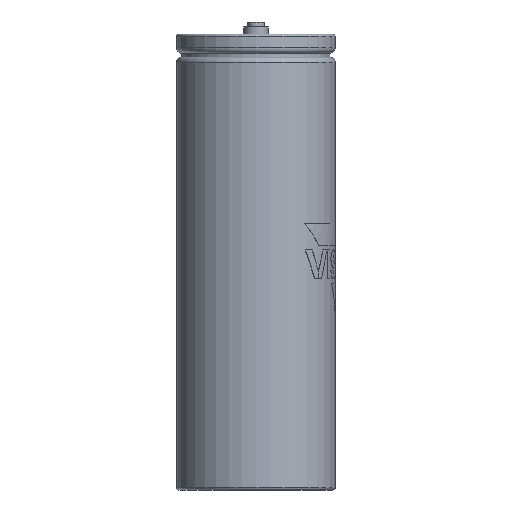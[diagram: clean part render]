
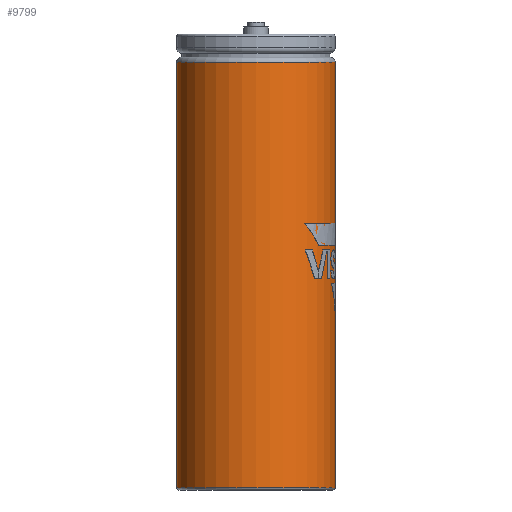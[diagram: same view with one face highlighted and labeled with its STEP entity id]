
A CAD part, left-side view. The second image highlights one B-rep face of the part: STEP entity #9799.
In plain terms, the highlighted cylindrical face has radius 38.2 mm (diameter 76.4 mm), a full revolution.
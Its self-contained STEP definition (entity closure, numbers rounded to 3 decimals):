
#9732 = TOROIDAL_SURFACE('',#9733,37.1,1.1);
#9733 = AXIS2_PLACEMENT_3D('',#9734,#9735,#9736);
#9734 = CARTESIAN_POINT('',(0.,0.,-217.6));
#9735 = DIRECTION('',(0.,0.,1.));
#9736 = DIRECTION('',(1.,0.,0.));
#9749 = VERTEX_POINT('',#9750);
#9750 = CARTESIAN_POINT('',(38.2,0.,-217.6));
#9772 = EDGE_CURVE('',#9749,#9749,#9773,.T.);
#9773 = SURFACE_CURVE('',#9774,(#9779,#9786),.PCURVE_S1.);
#9774 = CIRCLE('',#9775,38.2);
#9775 = AXIS2_PLACEMENT_3D('',#9776,#9777,#9778);
#9776 = CARTESIAN_POINT('',(0.,0.,-217.6));
#9777 = DIRECTION('',(0.,-0.,1.));
#9778 = DIRECTION('',(1.,0.,0.));
#9779 = PCURVE('',#9732,#9780);
#9780 = DEFINITIONAL_REPRESENTATION('',(#9781),#9785);
#9781 = LINE('',#9782,#9783);
#9782 = CARTESIAN_POINT('',(0.,6.283));
#9783 = VECTOR('',#9784,1.);
#9784 = DIRECTION('',(1.,0.));
#9785 = ( GEOMETRIC_REPRESENTATION_CONTEXT(2) 
PARAMETRIC_REPRESENTATION_CONTEXT() REPRESENTATION_CONTEXT('2D SPACE',''
  ) );
#9786 = PCURVE('',#9787,#9792);
#9787 = CYLINDRICAL_SURFACE('',#9788,38.2);
#9788 = AXIS2_PLACEMENT_3D('',#9789,#9790,#9791);
#9789 = CARTESIAN_POINT('',(0.,0.,-217.6));
#9790 = DIRECTION('',(0.,0.,1.));
#9791 = DIRECTION('',(1.,0.,0.));
#9792 = DEFINITIONAL_REPRESENTATION('',(#9793),#9797);
#9793 = LINE('',#9794,#9795);
#9794 = CARTESIAN_POINT('',(0.,0.));
#9795 = VECTOR('',#9796,1.);
#9796 = DIRECTION('',(1.,0.));
#9797 = ( GEOMETRIC_REPRESENTATION_CONTEXT(2) 
PARAMETRIC_REPRESENTATION_CONTEXT() REPRESENTATION_CONTEXT('2D SPACE',''
  ) );
#9799 = ADVANCED_FACE('',(#9800),#9787,.T.);
#9800 = FACE_BOUND('',#9801,.T.);
#9801 = EDGE_LOOP('',(#9802,#9803,#9826,#9853));
#9802 = ORIENTED_EDGE('',*,*,#9772,.T.);
#9803 = ORIENTED_EDGE('',*,*,#9804,.T.);
#9804 = EDGE_CURVE('',#9749,#9805,#9807,.T.);
#9805 = VERTEX_POINT('',#9806);
#9806 = CARTESIAN_POINT('',(38.2,0.,-12.5));
#9807 = SEAM_CURVE('',#9808,(#9812,#9819),.PCURVE_S1.);
#9808 = LINE('',#9809,#9810);
#9809 = CARTESIAN_POINT('',(38.2,0.,-217.6));
#9810 = VECTOR('',#9811,1.);
#9811 = DIRECTION('',(0.,0.,1.));
#9812 = PCURVE('',#9787,#9813);
#9813 = DEFINITIONAL_REPRESENTATION('',(#9814),#9818);
#9814 = LINE('',#9815,#9816);
#9815 = CARTESIAN_POINT('',(0.,0.));
#9816 = VECTOR('',#9817,1.);
#9817 = DIRECTION('',(0.,1.));
#9818 = ( GEOMETRIC_REPRESENTATION_CONTEXT(2) 
PARAMETRIC_REPRESENTATION_CONTEXT() REPRESENTATION_CONTEXT('2D SPACE',''
  ) );
#9819 = PCURVE('',#9787,#9820);
#9820 = DEFINITIONAL_REPRESENTATION('',(#9821),#9825);
#9821 = LINE('',#9822,#9823);
#9822 = CARTESIAN_POINT('',(6.283,0.));
#9823 = VECTOR('',#9824,1.);
#9824 = DIRECTION('',(0.,1.));
#9825 = ( GEOMETRIC_REPRESENTATION_CONTEXT(2) 
PARAMETRIC_REPRESENTATION_CONTEXT() REPRESENTATION_CONTEXT('2D SPACE',''
  ) );
#9826 = ORIENTED_EDGE('',*,*,#9827,.F.);
#9827 = EDGE_CURVE('',#9805,#9805,#9828,.T.);
#9828 = SURFACE_CURVE('',#9829,(#9834,#9841),.PCURVE_S1.);
#9829 = CIRCLE('',#9830,38.2);
#9830 = AXIS2_PLACEMENT_3D('',#9831,#9832,#9833);
#9831 = CARTESIAN_POINT('',(0.,0.,-12.5));
#9832 = DIRECTION('',(0.,-0.,1.));
#9833 = DIRECTION('',(1.,0.,0.));
#9834 = PCURVE('',#9787,#9835);
#9835 = DEFINITIONAL_REPRESENTATION('',(#9836),#9840);
#9836 = LINE('',#9837,#9838);
#9837 = CARTESIAN_POINT('',(0.,205.1));
#9838 = VECTOR('',#9839,1.);
#9839 = DIRECTION('',(1.,0.));
#9840 = ( GEOMETRIC_REPRESENTATION_CONTEXT(2) 
PARAMETRIC_REPRESENTATION_CONTEXT() REPRESENTATION_CONTEXT('2D SPACE',''
  ) );
#9841 = PCURVE('',#9842,#9847);
#9842 = TOROIDAL_SURFACE('',#9843,35.7,2.5);
#9843 = AXIS2_PLACEMENT_3D('',#9844,#9845,#9846);
#9844 = CARTESIAN_POINT('',(0.,0.,-12.5));
#9845 = DIRECTION('',(0.,0.,1.));
#9846 = DIRECTION('',(1.,0.,0.));
#9847 = DEFINITIONAL_REPRESENTATION('',(#9848),#9852);
#9848 = LINE('',#9849,#9850);
#9849 = CARTESIAN_POINT('',(0.,0.));
#9850 = VECTOR('',#9851,1.);
#9851 = DIRECTION('',(1.,0.));
#9852 = ( GEOMETRIC_REPRESENTATION_CONTEXT(2) 
PARAMETRIC_REPRESENTATION_CONTEXT() REPRESENTATION_CONTEXT('2D SPACE',''
  ) );
#9853 = ORIENTED_EDGE('',*,*,#9804,.F.);
